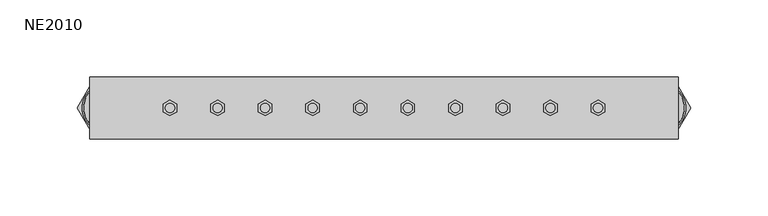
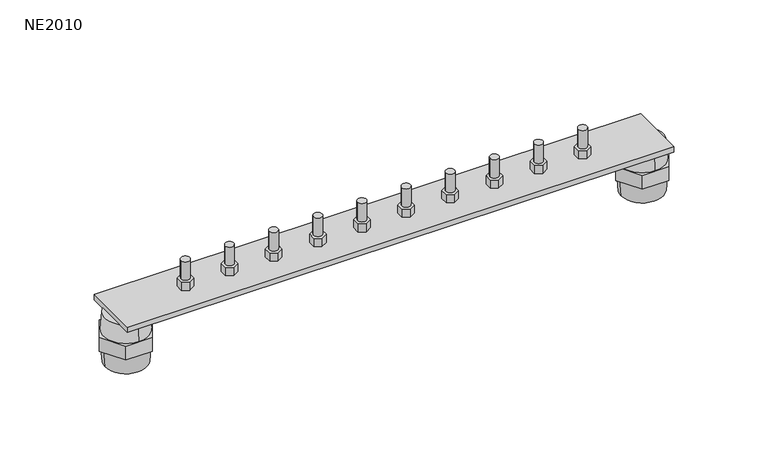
"""IFC4 building model written with IfcOpenShell, lengths in millimetres: proxy geometry, КНС_ШинаГлавнаяЗаземляющаяСИзоляторами_DKC : NE2010."""

import ifcopenshell
import ifcopenshell.guid

model = None  # the IFC model being written
_history = None  # IfcOwnerHistory: only IFC2X3 demands one
_inside = {}  # id of a spatial element -> (the spatial element, [elements in it])
_under = {}  # id of a project, library or spatial element -> (it, [spatial elements below it])
_declared = {}  # id of a project -> (the project, [libraries it declares])
_typed = {}  # id of a type object -> (the type object, [elements of that type])
_made_of = {}  # id of a material, layer set ... -> (it, [elements and type objects made of it])


def new_model(schema):
    """Start an empty IFC model of exactly this schema.

    Asked for "IFC4X3", IfcOpenShell would pick the latest addendum, in which some entities
    have other attributes; the version numbers below select the first issue.
    IFC2X3 requires an IfcOwnerHistory on every rooted entity: one is made here for all.
    """
    global model, _history
    if schema == "IFC4X3":
        model = ifcopenshell.file(schema_version=(4, 3, 0, 0))
    else:
        model = ifcopenshell.file(schema=schema)
    _inside.clear()
    _under.clear()
    _declared.clear()
    _typed.clear()
    _made_of.clear()
    _history = None
    if model.schema == "IFC2X3":
        org = make("IfcOrganization", Name="unknown")
        user = make(
            "IfcPersonAndOrganization",
            ThePerson=make("IfcPerson", FamilyName="unknown"),
            TheOrganization=org,
        )
        app = make(
            "IfcApplication",
            ApplicationDeveloper=org,
            Version="unknown",
            ApplicationFullName="unknown",
            ApplicationIdentifier="unknown",
        )
        _history = make(
            "IfcOwnerHistory",
            OwningUser=user,
            OwningApplication=app,
            ChangeAction="ADDED",
            CreationDate=0,
        )
    return model


def make(cls, **values):
    """One entity of the class cls with the attributes given. An attribute that is None is left unset."""
    return model.create_entity(
        cls, **{name: value for name, value in values.items() if value is not None}
    )


def rooted(cls, **values):
    """An entity with a GlobalId (a new one), such as an element, a storey or a relation."""
    return make(cls, GlobalId=ifcopenshell.guid.new(), OwnerHistory=_history, **values)


def si_unit(unit_type, name, prefix=None):
    """IfcSIUnit, for example si_unit("LENGTHUNIT", "METRE", prefix="MILLI")."""
    return make("IfcSIUnit", UnitType=unit_type, Prefix=prefix, Name=name)


def assignment(units):
    """IfcUnitAssignment: the units of a project."""
    return None if units is None else make("IfcUnitAssignment", Units=units)


def point(xyz):
    """IfcCartesianPoint."""
    return None if xyz is None else make("IfcCartesianPoint", Coordinates=xyz)


def direction(xyz):
    """IfcDirection."""
    return None if xyz is None else make("IfcDirection", DirectionRatios=xyz)


def frame(location, z_axis=None, x_axis=None):
    """IfcAxis2Placement3D, a coordinate frame: its origin and axes. An axis left out is left unset."""
    return make(
        "IfcAxis2Placement3D",
        Location=point(location),
        Axis=direction(z_axis),
        RefDirection=direction(x_axis),
    )


def frame_2d(location, x_axis=None):
    """IfcAxis2Placement2D, a coordinate frame in the plane: its origin and x axis."""
    return make(
        "IfcAxis2Placement2D", Location=point(location), RefDirection=direction(x_axis)
    )


def origin():
    """The frame at (0, 0, 0) with its axes left unset."""
    return frame((0.0, 0.0, 0.0))


def place(relative_to, where):
    """IfcLocalPlacement: puts the frame where relative to a parent placement (None: the world)."""
    return make(
        "IfcLocalPlacement", PlacementRelTo=relative_to, RelativePlacement=where
    )


def context(
    kind, dimensions, precision=None, world=None, true_north=None, identifier=None
):
    """IfcGeometricRepresentationContext, for example the 3D "Model" context."""
    return make(
        "IfcGeometricRepresentationContext",
        ContextIdentifier=identifier,
        ContextType=kind,
        CoordinateSpaceDimension=dimensions,
        Precision=precision,
        WorldCoordinateSystem=world,
        TrueNorth=true_north,
    )


def project(units=None, contexts=None):
    """IfcProject with its units and contexts."""
    return rooted(
        "IfcProject",
        Name="project",
        RepresentationContexts=contexts,
        UnitsInContext=assignment(units),
    )


def spatial(cls, under=None, at=None, **own):
    """A site, building, storey or space (cls), placed at a placement, below another one or the project."""
    s = rooted(cls, ObjectPlacement=at, **own)
    if under is not None:
        _under.setdefault(under.id(), (under, []))[1].append(s)
    return s


def polyline(points):
    """IfcPolyline through the points."""
    return make("IfcPolyline", Points=[point(p) for p in points])


def circle_curve(where, radius):
    """IfcCircle in the frame where."""
    return make("IfcCircle", Position=where, Radius=radius)


def trimmed(basis, trim1, trim2, sense, master):
    """IfcTrimmedCurve: the piece of a basis curve between two trims."""
    return make(
        "IfcTrimmedCurve",
        BasisCurve=basis,
        Trim1=trim1,
        Trim2=trim2,
        SenseAgreement=sense,
        MasterRepresentation=master,
    )


def segment(curve, same_sense, transition):
    """IfcCompositeCurveSegment."""
    return make(
        "IfcCompositeCurveSegment",
        Transition=transition,
        SameSense=same_sense,
        ParentCurve=curve,
    )


def composite_curve(segments, self_intersect=None):
    """IfcCompositeCurve: segments joined end to end."""
    return make("IfcCompositeCurve", Segments=segments, SelfIntersect=self_intersect)


def outline(outer, holes=None, kind="AREA"):
    """IfcArbitraryClosedProfileDef: a profile drawn as a closed curve; with holes, ...WithVoids."""
    if holes is None:
        return make("IfcArbitraryClosedProfileDef", ProfileType=kind, OuterCurve=outer)
    return make(
        "IfcArbitraryProfileDefWithVoids",
        ProfileType=kind,
        OuterCurve=outer,
        InnerCurves=holes,
    )


def extrude(swept, where, along, depth):
    """IfcExtrudedAreaSolid: the profile swept, set in the frame where, extruded along a direction by depth."""
    return make(
        "IfcExtrudedAreaSolid",
        SweptArea=swept,
        Position=where,
        ExtrudedDirection=direction(along),
        Depth=depth,
    )


def shape(context_of_items, identifier, shape_type, items):
    """IfcShapeRepresentation: the items that make up one representation, for example the "Body"."""
    return make(
        "IfcShapeRepresentation",
        ContextOfItems=context_of_items,
        RepresentationIdentifier=identifier,
        RepresentationType=shape_type,
        Items=items,
    )


def source(mapping_origin, context_of_items, identifier, shape_type, items):
    """IfcRepresentationMap: a shape defined once, which mapped items show again and again."""
    return make(
        "IfcRepresentationMap",
        MappingOrigin=mapping_origin,
        MappedRepresentation=shape(context_of_items, identifier, shape_type, items),
    )


def transform(
    local_origin,
    x_axis=None,
    y_axis=None,
    z_axis=None,
    scale=None,
    scale2=None,
    scale3=None,
    uniform=True,
):
    """IfcCartesianTransformationOperator3D, or its non-uniform kind. x_axis, y_axis, z_axis: its Axis1, 2, 3."""
    if uniform:
        return make(
            "IfcCartesianTransformationOperator3D",
            Axis1=direction(x_axis),
            Axis2=direction(y_axis),
            LocalOrigin=point(local_origin),
            Scale=scale,
            Axis3=direction(z_axis),
        )
    return make(
        "IfcCartesianTransformationOperator3DnonUniform",
        Axis1=direction(x_axis),
        Axis2=direction(y_axis),
        LocalOrigin=point(local_origin),
        Scale=scale,
        Axis3=direction(z_axis),
        Scale2=scale2,
        Scale3=scale3,
    )


def mapped(mapping_source, mapping_target):
    """IfcMappedItem: shows the shape of a source again, moved by a transform."""
    return make(
        "IfcMappedItem", MappingSource=mapping_source, MappingTarget=mapping_target
    )


def made_of(thing, what):
    """Note that an element or type object is made of a material, layer set ...; save() writes the relation."""
    if what is not None:
        _made_of.setdefault(what.id(), (what, []))[1].append(thing)
    return thing


def element(
    cls,
    number,
    at=None,
    inside=None,
    cuts=None,
    type_object=None,
    material=None,
    context=None,
    identifier="Body",
    shape_type=None,
    held_by="IfcProductDefinitionShape",
    body=None,
    shapes=None,
    **own,
):
    """One element of the class cls, such as IfcWall. Its Tag is "e" and its number.

    at: its placement. inside: the storey or other place that contains it. cuts: it is an
    opening in that element (IfcRelVoidsElement). A single representation is given by context,
    identifier, shape_type and body (its items); several are given by shapes. held_by: the class
    of the entity that holds the representations. save() writes the other relations.
    """
    e = rooted(cls, Tag="e%d" % number, ObjectPlacement=at, **own)
    if body is not None:
        shapes = [shape(context, identifier, shape_type, body)]
    if shapes is not None:
        e.Representation = make(held_by, Representations=shapes)
    if inside is not None:
        _inside.setdefault(inside.id(), (inside, []))[1].append(e)
    if cuts is not None:
        rooted(
            "IfcRelVoidsElement", RelatingBuildingElement=cuts, RelatedOpeningElement=e
        )
    if type_object is not None:
        _typed.setdefault(type_object.id(), (type_object, []))[1].append(e)
    return made_of(e, material)


def aggregate(whole, parts):
    """IfcRelAggregates: a whole, such as a stair, and the parts it consists of."""
    return rooted("IfcRelAggregates", RelatingObject=whole, RelatedObjects=parts)


def save(model, path):
    """Write the relations noted so far, then the file.

    IfcRelAggregates (storeys below a building ...), IfcRelContainedInSpatialStructure (elements
    in a storey), IfcRelDefinesByType, IfcRelAssociatesMaterial and IfcRelDeclares: one each for
    every whole, place, type object, material and project.
    """
    for whole, parts in _under.values():
        aggregate(whole, parts)
    for where, things in _inside.values():
        rooted(
            "IfcRelContainedInSpatialStructure",
            RelatedElements=things,
            RelatingStructure=where,
        )
    for kind, things in _typed.values():
        rooted("IfcRelDefinesByType", RelatedObjects=things, RelatingType=kind)
    for what, things in _made_of.values():
        rooted("IfcRelAssociatesMaterial", RelatedObjects=things, RelatingMaterial=what)
    for by, libraries in _declared.values():
        rooted("IfcRelDeclares", RelatingContext=by, RelatedDefinitions=libraries)
    model.write(path)


def plane_surface(at):
    """IfcPlane: the flat surface through the origin of the frame at, square to its z axis."""
    return make("IfcPlane", Position=at)


def revolved_surface(curve, axis_point, axis_direction):
    """IfcSurfaceOfRevolution: the curve turned about the line through axis_point along axis_direction."""
    return make(
        "IfcSurfaceOfRevolution",
        SweptCurve=make("IfcArbitraryOpenProfileDef", ProfileType="CURVE", Curve=curve),
        AxisPosition=make("IfcAxis1Placement", Location=point(axis_point), Axis=direction(axis_direction)),
    )


def advanced_brep(points, edges, surfaces, faces):
    """IfcAdvancedBrep: a solid bounded by faces that lie on surfaces and meet in shared edges.

    An edge is (start, end): straight between two places in points (the first is 0);
    or (start, end, curve); or (start, end, curve, False) where it runs against its curve.
    A face is (place in surfaces, loops), or (place, loops, False) where it looks against
    its surface's normal. A loop lists edges by number (the first is 1), with a minus sign
    where the edge is run from its end to its start. The first loop is the outer one.
    """
    corners = [point(p) for p in points]
    vertices = [make("IfcVertexPoint", VertexGeometry=c) for c in corners]
    made = []
    for start, end, *more in edges:
        made.append(
            make(
                "IfcEdgeCurve",
                EdgeStart=vertices[start],
                EdgeEnd=vertices[end],
                EdgeGeometry=more[0] if more else make("IfcPolyline", Points=[corners[start], corners[end]]),
                SameSense=more[1] if len(more) > 1 else True,
            )
        )
    hull = []
    for where, loops, *sense in faces:
        bounds = []
        for j, loop in enumerate(loops):
            ring = [make("IfcOrientedEdge", EdgeElement=made[abs(k) - 1], Orientation=k > 0) for k in loop]
            bounds.append(
                make(
                    "IfcFaceOuterBound" if j == 0 else "IfcFaceBound",
                    Bound=make("IfcEdgeLoop", EdgeList=ring),
                    Orientation=True,
                )
            )
        hull.append(make("IfcAdvancedFace", Bounds=bounds, FaceSurface=surfaces[where], SameSense=sense[0] if sense else True))
    return make("IfcAdvancedBrep", Outer=make("IfcClosedShell", CfsFaces=hull))


def ne2010_22dc5c60(model_context):
    return source(origin(), model_context, "Body", "SolidModel", [
        extrude(outline(polyline([(142.830127, -2.5), (138.5, -5.0), (134.169873, -2.5), (134.169873, 2.5), (138.5, 5.0), (142.830127, 2.5), (142.830127, -2.5)])), frame((0.0, 0.0, 40.0), z_axis=(0.0, 0.0, 1.0), x_axis=(1.0, 0.0, 0.0)), (0.0, 0.0, 1.0), 6.0),
        extrude(outline(composite_curve([segment(trimmed(circle_curve(frame_2d((138.5, 0.0)), 3.0), [point((135.5, 0.0))], [point((141.5, 0.0))], False, "CARTESIAN"), True, "CONTINUOUS"), segment(trimmed(circle_curve(frame_2d((138.5, 0.0)), 3.0), [point((141.5, 0.0))], [point((135.5, 0.0))], False, "CARTESIAN"), True, "CONTINUOUS")], self_intersect=False)), frame((0.0, 0.0, 46.0), z_axis=(0.0, 0.0, 1.0), x_axis=(1.0, 0.0, 0.0)), (0.0, 0.0, 1.0), 14.0),
        extrude(outline(polyline([(112.0523492, -2.5), (107.7222222, -5.0), (103.3920952, -2.5), (103.3920952, 2.5), (107.7222222, 5.0), (112.0523492, 2.5), (112.0523492, -2.5)])), frame((0.0, 0.0, 40.0), z_axis=(0.0, 0.0, 1.0), x_axis=(1.0, 0.0, 0.0)), (0.0, 0.0, 1.0), 6.0),
        extrude(outline(composite_curve([segment(trimmed(circle_curve(frame_2d((107.7222222, 0.0)), 3.0), [point((104.7222222, 0.0))], [point((110.7222222, 0.0))], False, "CARTESIAN"), True, "CONTINUOUS"), segment(trimmed(circle_curve(frame_2d((107.7222222, 0.0)), 3.0), [point((110.7222222, 0.0))], [point((104.7222222, 0.0))], False, "CARTESIAN"), True, "CONTINUOUS")], self_intersect=False)), frame((0.0, 0.0, 46.0), z_axis=(0.0, 0.0, 1.0), x_axis=(1.0, 0.0, 0.0)), (0.0, 0.0, 1.0), 14.0),
        extrude(outline(polyline([(81.2745715, -2.5), (76.9444444, -5.0), (72.6143174, -2.5), (72.6143174, 2.5), (76.9444444, 5.0), (81.2745715, 2.5), (81.2745715, -2.5)])), frame((0.0, 0.0, 40.0), z_axis=(0.0, 0.0, 1.0), x_axis=(1.0, 0.0, 0.0)), (0.0, 0.0, 1.0), 6.0),
        extrude(outline(composite_curve([segment(trimmed(circle_curve(frame_2d((76.9444444, 0.0)), 3.0), [point((73.9444444, 0.0))], [point((79.9444444, 0.0))], False, "CARTESIAN"), True, "CONTINUOUS"), segment(trimmed(circle_curve(frame_2d((76.9444444, 0.0)), 3.0), [point((79.9444444, 0.0))], [point((73.9444444, 0.0))], False, "CARTESIAN"), True, "CONTINUOUS")], self_intersect=False)), frame((0.0, 0.0, 46.0), z_axis=(0.0, 0.0, 1.0), x_axis=(1.0, 0.0, 0.0)), (0.0, 0.0, 1.0), 14.0),
        extrude(outline(polyline([(50.4967937, -2.5), (46.1666667, -5.0), (41.8365396, -2.5), (41.8365396, 2.5), (46.1666667, 5.0), (50.4967937, 2.5), (50.4967937, -2.5)])), frame((0.0, 0.0, 40.0), z_axis=(0.0, 0.0, 1.0), x_axis=(1.0, 0.0, 0.0)), (0.0, 0.0, 1.0), 6.0),
        extrude(outline(composite_curve([segment(trimmed(circle_curve(frame_2d((46.1666667, 0.0)), 3.0), [point((43.1666667, 0.0))], [point((49.1666667, 0.0))], False, "CARTESIAN"), True, "CONTINUOUS"), segment(trimmed(circle_curve(frame_2d((46.1666667, 0.0)), 3.0), [point((49.1666667, 0.0))], [point((43.1666667, 0.0))], False, "CARTESIAN"), True, "CONTINUOUS")], self_intersect=False)), frame((0.0, 0.0, 46.0), z_axis=(0.0, 0.0, 1.0), x_axis=(1.0, 0.0, 0.0)), (0.0, 0.0, 1.0), 14.0),
        extrude(outline(polyline([(19.7190159, -2.5), (15.3888889, -5.0), (11.0587619, -2.5), (11.0587619, 2.5), (15.3888889, 5.0), (19.7190159, 2.5), (19.7190159, -2.5)])), frame((0.0, 0.0, 40.0), z_axis=(0.0, 0.0, 1.0), x_axis=(1.0, 0.0, 0.0)), (0.0, 0.0, 1.0), 6.0),
        extrude(outline(composite_curve([segment(trimmed(circle_curve(frame_2d((15.3888889, 0.0)), 3.0), [point((12.3888889, 0.0))], [point((18.3888889, 0.0))], False, "CARTESIAN"), True, "CONTINUOUS"), segment(trimmed(circle_curve(frame_2d((15.3888889, 0.0)), 3.0), [point((18.3888889, 0.0))], [point((12.3888889, 0.0))], False, "CARTESIAN"), True, "CONTINUOUS")], self_intersect=False)), frame((0.0, 0.0, 46.0), z_axis=(0.0, 0.0, 1.0), x_axis=(1.0, 0.0, 0.0)), (0.0, 0.0, 1.0), 14.0),
        extrude(outline(polyline([(-11.0587619, -2.5), (-15.3888889, -5.0), (-19.7190159, -2.5), (-19.7190159, 2.5), (-15.3888889, 5.0), (-11.0587619, 2.5), (-11.0587619, -2.5)])), frame((0.0, 0.0, 40.0), z_axis=(0.0, 0.0, 1.0), x_axis=(1.0, 0.0, 0.0)), (0.0, 0.0, 1.0), 6.0),
        extrude(outline(composite_curve([segment(trimmed(circle_curve(frame_2d((-15.3888889, 0.0)), 3.0), [point((-18.3888889, 0.0))], [point((-12.3888889, 0.0))], False, "CARTESIAN"), True, "CONTINUOUS"), segment(trimmed(circle_curve(frame_2d((-15.3888889, 0.0)), 3.0), [point((-12.3888889, 0.0))], [point((-18.3888889, 0.0))], False, "CARTESIAN"), True, "CONTINUOUS")], self_intersect=False)), frame((0.0, 0.0, 46.0), z_axis=(0.0, 0.0, 1.0), x_axis=(1.0, 0.0, 0.0)), (0.0, 0.0, 1.0), 14.0),
        extrude(outline(polyline([(-41.8365396, -2.5), (-46.1666667, -5.0), (-50.4967937, -2.5), (-50.4967937, 2.5), (-46.1666667, 5.0), (-41.8365396, 2.5), (-41.8365396, -2.5)])), frame((0.0, 0.0, 40.0), z_axis=(0.0, 0.0, 1.0), x_axis=(1.0, 0.0, 0.0)), (0.0, 0.0, 1.0), 6.0),
        extrude(outline(composite_curve([segment(trimmed(circle_curve(frame_2d((-46.1666667, 0.0)), 3.0), [point((-49.1666667, 0.0))], [point((-43.1666667, 0.0))], False, "CARTESIAN"), True, "CONTINUOUS"), segment(trimmed(circle_curve(frame_2d((-46.1666667, 0.0)), 3.0), [point((-43.1666667, 0.0))], [point((-49.1666667, 0.0))], False, "CARTESIAN"), True, "CONTINUOUS")], self_intersect=False)), frame((0.0, 0.0, 46.0), z_axis=(0.0, 0.0, 1.0), x_axis=(1.0, 0.0, 0.0)), (0.0, 0.0, 1.0), 14.0),
        extrude(outline(polyline([(-72.6143174, -2.5), (-76.9444444, -5.0), (-81.2745715, -2.5), (-81.2745715, 2.5), (-76.9444444, 5.0), (-72.6143174, 2.5), (-72.6143174, -2.5)])), frame((0.0, 0.0, 40.0), z_axis=(0.0, 0.0, 1.0), x_axis=(1.0, 0.0, 0.0)), (0.0, 0.0, 1.0), 6.0),
        extrude(outline(composite_curve([segment(trimmed(circle_curve(frame_2d((-76.9444444, 0.0)), 3.0), [point((-79.9444444, 0.0))], [point((-73.9444444, 0.0))], False, "CARTESIAN"), True, "CONTINUOUS"), segment(trimmed(circle_curve(frame_2d((-76.9444444, 0.0)), 3.0), [point((-73.9444444, 0.0))], [point((-79.9444444, 0.0))], False, "CARTESIAN"), True, "CONTINUOUS")], self_intersect=False)), frame((0.0, 0.0, 46.0), z_axis=(0.0, 0.0, 1.0), x_axis=(1.0, 0.0, 0.0)), (0.0, 0.0, 1.0), 14.0),
        extrude(outline(polyline([(-103.3920952, -2.5), (-107.7222222, -5.0), (-112.0523492, -2.5), (-112.0523492, 2.5), (-107.7222222, 5.0), (-103.3920952, 2.5), (-103.3920952, -2.5)])), frame((0.0, 0.0, 40.0), z_axis=(0.0, 0.0, 1.0), x_axis=(1.0, 0.0, 0.0)), (0.0, 0.0, 1.0), 6.0),
        extrude(outline(composite_curve([segment(trimmed(circle_curve(frame_2d((-107.7222222, 0.0)), 3.0), [point((-110.7222222, 0.0))], [point((-104.7222222, 0.0))], False, "CARTESIAN"), True, "CONTINUOUS"), segment(trimmed(circle_curve(frame_2d((-107.7222222, 0.0)), 3.0), [point((-104.7222222, 0.0))], [point((-110.7222222, 0.0))], False, "CARTESIAN"), True, "CONTINUOUS")], self_intersect=False)), frame((0.0, 0.0, 46.0), z_axis=(0.0, 0.0, 1.0), x_axis=(1.0, 0.0, 0.0)), (0.0, 0.0, 1.0), 14.0),
        extrude(outline(polyline([(-134.169873, -2.5), (-138.5, -5.0), (-142.830127, -2.5), (-142.830127, 2.5), (-138.5, 5.0), (-134.169873, 2.5), (-134.169873, -2.5)])), frame((0.0, 0.0, 40.0), z_axis=(0.0, 0.0, 1.0), x_axis=(1.0, 0.0, 0.0)), (0.0, 0.0, 1.0), 6.0),
        extrude(outline(composite_curve([segment(trimmed(circle_curve(frame_2d((-138.5, 0.0)), 3.0), [point((-141.5, 0.0))], [point((-135.5, 0.0))], False, "CARTESIAN"), True, "CONTINUOUS"), segment(trimmed(circle_curve(frame_2d((-138.5, 0.0)), 3.0), [point((-135.5, 0.0))], [point((-141.5, 0.0))], False, "CARTESIAN"), True, "CONTINUOUS")], self_intersect=False)), frame((0.0, 0.0, 46.0), z_axis=(0.0, 0.0, 1.0), x_axis=(1.0, 0.0, 0.0)), (0.0, 0.0, 1.0), 14.0),
        advanced_brep(
        [(180.0, 15.5, 23.0), (180.0, -15.5, 23.0), (180.0, 14.5, 36.0), (180.0, -14.5, 36.0)],
        [
            (0, 1, circle_curve(frame((180.0, 0.0, 23.0), z_axis=(0.0, 0.0, -1.0), x_axis=(0.0, 1.0, 0.0)), 15.5)),
            (1, 0, circle_curve(frame((180.0, 0.0, 23.0), z_axis=(0.0, 0.0, -1.0), x_axis=(0.0, -1.0, 0.0)), 15.5)),
            (2, 3, circle_curve(frame((180.0, 0.0, 36.0), z_axis=(0.0, 0.0, 1.0), x_axis=(0.0, -1.0, 0.0)), 14.5)),
            (3, 2, circle_curve(frame((180.0, 0.0, 36.0), z_axis=(0.0, 0.0, 1.0), x_axis=(0.0, 1.0, 0.0)), 14.5)),
            (2, 0),
            (1, 3),
        ],
        [
            plane_surface(frame((180.0, 0.0, 23.0), z_axis=(0.0, 0.0, -1.0), x_axis=(-1.0, 0.0, 0.0))),
            plane_surface(frame((180.0, 0.0, 36.0), z_axis=(0.0, 0.0, 1.0), x_axis=(-1.0, 0.0, 0.0))),
            revolved_surface(polyline([(180.0, 14.5, 36.0), (180.0, 15.5, 23.0)]), (180.0, 0.0, 224.5), (0.0, 0.0, -1.0)),
            revolved_surface(polyline([(180.0, -14.5, 36.0), (180.0, -15.5, 23.0)]), (180.0, 0.0, 224.5), (0.0, 0.0, -1.0)),
        ],
        [
            (0, [[1, 2]]),
            (1, [[3, 4]]),
            (2, [[-3, 5, -2, 6]]),
            (3, [[-4, -6, -1, -5]]),
        ],
    ),
        advanced_brep(
        [(164.5, 0.0, 13.0), (195.5, 0.0, 13.0), (165.5, 0.0, 0.0), (194.5, 0.0, 0.0)],
        [
            (0, 1, circle_curve(frame((180.0, 0.0, 13.0), z_axis=(0.0, 0.0, 1.0), x_axis=(-1.0, 0.0, 0.0)), 15.5)),
            (1, 0, circle_curve(frame((180.0, 0.0, 13.0), z_axis=(0.0, 0.0, 1.0), x_axis=(1.0, 0.0, 0.0)), 15.5)),
            (2, 3, circle_curve(frame((180.0, 0.0, 0.0), z_axis=(0.0, 0.0, -1.0), x_axis=(1.0, 0.0, 0.0)), 14.5)),
            (3, 2, circle_curve(frame((180.0, 0.0, 0.0), z_axis=(0.0, 0.0, -1.0), x_axis=(-1.0, 0.0, 0.0)), 14.5)),
            (3, 1),
            (0, 2),
        ],
        [
            plane_surface(frame((180.0, 0.0, 13.0), z_axis=(0.0, 0.0, 1.0), x_axis=(0.0, -1.0, 0.0))),
            plane_surface(frame((180.0, 0.0, 0.0), z_axis=(0.0, 0.0, -1.0), x_axis=(0.0, -1.0, 0.0))),
            revolved_surface(polyline([(194.5, 0.0, 0.0), (195.5, 0.0, 13.0)]), (180.0, 0.0, -188.5), (0.0, 0.0, 1.0)),
            revolved_surface(polyline([(165.5, 0.0, 0.0), (164.5, 0.0, 13.0)]), (180.0, 0.0, -188.5), (0.0, 0.0, 1.0)),
        ],
        [
            (0, [[1, 2]]),
            (1, [[3, 4]]),
            (2, [[-4, 5, -1, 6]]),
            (3, [[-3, -6, -2, -5]]),
        ],
    ),
        advanced_brep(
        [(-180.0, 15.5, 23.0), (-180.0, -15.5, 23.0), (-180.0, 14.5, 36.0), (-180.0, -14.5, 36.0)],
        [
            (0, 1, circle_curve(frame((-180.0, 0.0, 23.0), z_axis=(0.0, 0.0, -1.0), x_axis=(0.0, 1.0, 0.0)), 15.5)),
            (1, 0, circle_curve(frame((-180.0, 0.0, 23.0), z_axis=(0.0, 0.0, -1.0), x_axis=(0.0, -1.0, 0.0)), 15.5)),
            (2, 3, circle_curve(frame((-180.0, 0.0, 36.0), z_axis=(0.0, 0.0, 1.0), x_axis=(0.0, -1.0, 0.0)), 14.5)),
            (3, 2, circle_curve(frame((-180.0, 0.0, 36.0), z_axis=(0.0, 0.0, 1.0), x_axis=(0.0, 1.0, 0.0)), 14.5)),
            (2, 0),
            (1, 3),
        ],
        [
            plane_surface(frame((-180.0, 0.0, 23.0), z_axis=(0.0, 0.0, -1.0), x_axis=(-1.0, 0.0, 0.0))),
            plane_surface(frame((-180.0, 0.0, 36.0), z_axis=(0.0, 0.0, 1.0), x_axis=(-1.0, 0.0, 0.0))),
            revolved_surface(polyline([(-180.0, 14.5, 36.0), (-180.0, 15.5, 23.0)]), (-180.0, 0.0, 224.5), (0.0, 0.0, -1.0)),
            revolved_surface(polyline([(-180.0, -14.5, 36.0), (-180.0, -15.5, 23.0)]), (-180.0, 0.0, 224.5), (0.0, 0.0, -1.0)),
        ],
        [
            (0, [[1, 2]]),
            (1, [[3, 4]]),
            (2, [[-3, 5, -2, 6]]),
            (3, [[-4, -6, -1, -5]]),
        ],
    ),
        advanced_brep(
        [(-195.5, 0.0, 13.0), (-164.5, 0.0, 13.0), (-194.5, 0.0, 0.0), (-165.5, 0.0, 0.0)],
        [
            (0, 1, circle_curve(frame((-180.0, 0.0, 13.0), z_axis=(0.0, 0.0, 1.0), x_axis=(-1.0, 0.0, 0.0)), 15.5)),
            (1, 0, circle_curve(frame((-180.0, 0.0, 13.0), z_axis=(0.0, 0.0, 1.0), x_axis=(1.0, 0.0, 0.0)), 15.5)),
            (2, 3, circle_curve(frame((-180.0, 0.0, 0.0), z_axis=(0.0, 0.0, -1.0), x_axis=(1.0, 0.0, 0.0)), 14.5)),
            (3, 2, circle_curve(frame((-180.0, 0.0, 0.0), z_axis=(0.0, 0.0, -1.0), x_axis=(-1.0, 0.0, 0.0)), 14.5)),
            (3, 1),
            (0, 2),
        ],
        [
            plane_surface(frame((-180.0, 0.0, 13.0), z_axis=(0.0, 0.0, 1.0), x_axis=(0.0, -1.0, 0.0))),
            plane_surface(frame((-180.0, 0.0, 0.0), z_axis=(0.0, 0.0, -1.0), x_axis=(0.0, -1.0, 0.0))),
            revolved_surface(polyline([(-165.5, 0.0, 0.0), (-164.5, 0.0, 13.0)]), (-180.0, 0.0, -188.5), (0.0, 0.0, 1.0)),
            revolved_surface(polyline([(-194.5, 0.0, 0.0), (-195.5, 0.0, 13.0)]), (-180.0, 0.0, -188.5), (0.0, 0.0, 1.0)),
        ],
        [
            (0, [[1, 2]]),
            (1, [[3, 4]]),
            (2, [[-4, 5, -1, 6]]),
            (3, [[-3, -6, -2, -5]]),
        ],
    ),
        extrude(outline(polyline([(190.5, -20.0), (-190.5, -20.0), (-190.5, 20.0), (190.5, 20.0), (190.5, -20.0)])), frame((0.0, 0.0, 36.0), z_axis=(0.0, 0.0, 1.0), x_axis=(1.0, 0.0, 0.0)), (0.0, 0.0, 1.0), 4.0),
        extrude(outline(polyline([(170.75, -16.02147), (161.5, 0.0), (170.75, 16.02147), (189.25, 16.02147), (198.5, 0.0), (189.25, -16.02147), (170.75, -16.02147)])), frame((0.0, 0.0, 13.0), z_axis=(0.0, 0.0, 1.0), x_axis=(1.0, 0.0, 0.0)), (0.0, 0.0, 1.0), 10.0),
        extrude(outline(polyline([(-189.25, -16.02147), (-198.5, 0.0), (-189.25, 16.02147), (-170.75, 16.02147), (-161.5, 0.0), (-170.75, -16.02147), (-189.25, -16.02147)])), frame((0.0, 0.0, 13.0), z_axis=(0.0, 0.0, 1.0), x_axis=(1.0, 0.0, 0.0)), (0.0, 0.0, 1.0), 10.0),
    ])


if __name__ == "__main__":
    model = new_model("IFC4")
    model_context = context("Model", 3, world=origin())
    ifc_project = project(units=[si_unit("LENGTHUNIT", "METRE", prefix="MILLI")], contexts=[model_context])
    site = spatial("IfcSite", under=ifc_project)
    building = spatial("IfcBuilding", under=site)
    placement = place(None, origin())
    ne2010_shape = ne2010_22dc5c60(model_context)
    element("IfcBuildingElementProxy", 1, Name="КНС_ШинаГлавнаяЗаземляющаяСИзоляторами_DKC : NE2010", ObjectType="КНС_ШинаГлавнаяЗаземляющаяСИзоляторами_DKC : NE2010", at=placement, inside=building, context=model_context, shape_type="MappedRepresentation", body=[
        mapped(ne2010_shape, transform((0.0, 0.0, 0.0), x_axis=(1.0, 0.0, 0.0), y_axis=(0.0, 1.0, 0.0), z_axis=(0.0, 0.0, 1.0))),
    ])
    save(model, "model.ifc")
